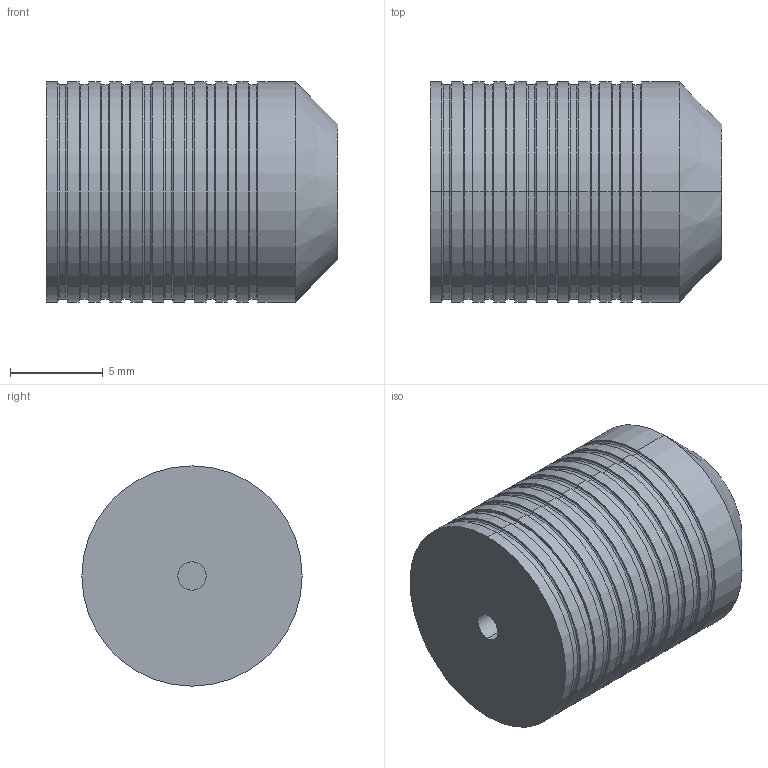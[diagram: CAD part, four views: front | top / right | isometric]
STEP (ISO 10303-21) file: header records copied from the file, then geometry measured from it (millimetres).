
FILE_DESCRIPTION (( 'STEP AP214' ), '1' );
FILE_NAME ('PLGA4681 _ _ 0A.STEP', '2020-02-19T16:23:37', ( 'tlc' ), ( 'Microsoft' ), 'SwSTEP 2.0', 'SolidWorks 2019', '' );
FILE_SCHEMA (( 'AUTOMOTIVE_DESIGN' ));
Length unit declared in the file: inch
Products named in the file (1): PLGA4681 _ _ 0A
Bounding box: 15.75 x 11.89 x 11.89 mm (x, y, z)
Volume: 1615.5 mm3; surface area: 894.7 mm2
Topology: 1 solids, 1 shells, 107 faces, 212 edges, 128 vertices
Faces by surface type: cylinder 44, torus 38, plane 23, cone 2
Entity records: 2852 total; most frequent: DIRECTION 594, CARTESIAN_POINT 448, ORIENTED_EDGE 424, AXIS2_PLACEMENT_3D 274, EDGE_CURVE 212, CIRCLE 166, EDGE_LOOP 128, VERTEX_POINT 128
